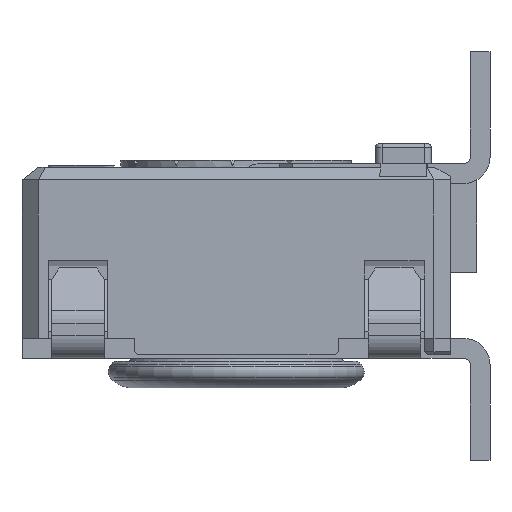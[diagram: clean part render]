
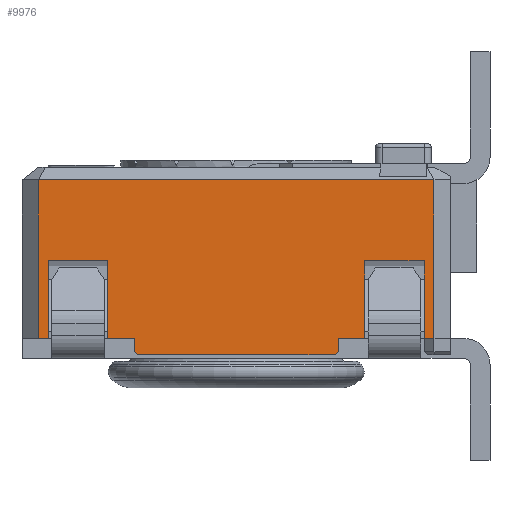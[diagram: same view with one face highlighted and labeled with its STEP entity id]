
A CAD part, left-side view. The second image highlights one B-rep face of the part: STEP entity #9976.
In plain terms, the highlighted planar face has unit normal (-1, 0, 0).
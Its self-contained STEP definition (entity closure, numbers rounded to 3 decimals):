
#429=PLANE('',#10728);
#927=FACE_OUTER_BOUND('',#1447,.T.);
#1447=EDGE_LOOP('',(#8835,#8836,#8837,#8838,#8839,#8840,#8841,#8842,#8843,
#8844,#8845,#8846,#8847,#8848,#8849,#8850,#8851,#8852));
#2064=LINE('',#15100,#3197);
#2173=LINE('',#15344,#3306);
#2179=LINE('',#15357,#3312);
#2185=LINE('',#15368,#3318);
#2191=LINE('',#15379,#3324);
#2196=LINE('',#15389,#3329);
#2199=LINE('',#15395,#3332);
#2204=LINE('',#15404,#3337);
#2220=LINE('',#15434,#3353);
#2243=LINE('',#15487,#3376);
#2255=LINE('',#15507,#3388);
#2257=LINE('',#15512,#3390);
#2266=LINE('',#15530,#3399);
#2267=LINE('',#15532,#3400);
#2466=LINE('',#16028,#3599);
#2479=LINE('',#16052,#3612);
#2480=LINE('',#16054,#3613);
#2481=LINE('',#16056,#3614);
#3197=VECTOR('',#12150,10.);
#3306=VECTOR('',#12325,10.);
#3312=VECTOR('',#12333,10.);
#3318=VECTOR('',#12339,10.);
#3324=VECTOR('',#12347,10.);
#3329=VECTOR('',#12354,10.);
#3332=VECTOR('',#12359,10.);
#3337=VECTOR('',#12366,10.);
#3353=VECTOR('',#12390,10.);
#3376=VECTOR('',#12441,10.);
#3388=VECTOR('',#12461,10.);
#3390=VECTOR('',#12465,10.);
#3399=VECTOR('',#12486,10.);
#3400=VECTOR('',#12489,10.);
#3599=VECTOR('',#12960,10.);
#3612=VECTOR('',#12981,10.);
#3613=VECTOR('',#12984,10.);
#3614=VECTOR('',#12987,10.);
#4556=VERTEX_POINT('',#15097);
#4557=VERTEX_POINT('',#15099);
#4658=VERTEX_POINT('',#15341);
#4659=VERTEX_POINT('',#15343);
#4663=VERTEX_POINT('',#15353);
#4665=VERTEX_POINT('',#15356);
#4670=VERTEX_POINT('',#15366);
#4673=VERTEX_POINT('',#15376);
#4677=VERTEX_POINT('',#15386);
#4680=VERTEX_POINT('',#15393);
#4683=VERTEX_POINT('',#15402);
#4691=VERTEX_POINT('',#15421);
#4693=VERTEX_POINT('',#15433);
#4709=VERTEX_POINT('',#15483);
#4714=VERTEX_POINT('',#15509);
#4851=VERTEX_POINT('',#16025);
#4852=VERTEX_POINT('',#16027);
#4859=VERTEX_POINT('',#16050);
#5693=EDGE_CURVE('',#4557,#4556,#2064,.T.);
#5818=EDGE_CURVE('',#4659,#4658,#2173,.T.);
#5824=EDGE_CURVE('',#4665,#4663,#2179,.T.);
#5830=EDGE_CURVE('',#4658,#4670,#2185,.T.);
#5836=EDGE_CURVE('',#4663,#4673,#2191,.T.);
#5841=EDGE_CURVE('',#4673,#4677,#2196,.T.);
#5844=EDGE_CURVE('',#4677,#4680,#2199,.T.);
#5849=EDGE_CURVE('',#4680,#4683,#2204,.T.);
#5865=EDGE_CURVE('',#4693,#4659,#2220,.T.);
#5894=EDGE_CURVE('',#4556,#4693,#2243,.T.);
#5906=EDGE_CURVE('',#4557,#4709,#2255,.T.);
#5908=EDGE_CURVE('',#4670,#4714,#2257,.T.);
#5917=EDGE_CURVE('',#4683,#4691,#2266,.T.);
#5918=EDGE_CURVE('',#4709,#4691,#2267,.T.);
#6161=EDGE_CURVE('',#4851,#4852,#2466,.T.);
#6174=EDGE_CURVE('',#4859,#4714,#2479,.T.);
#6175=EDGE_CURVE('',#4859,#4852,#2480,.T.);
#6176=EDGE_CURVE('',#4851,#4665,#2481,.T.);
#8835=ORIENTED_EDGE('',*,*,#6174,.F.);
#8836=ORIENTED_EDGE('',*,*,#6175,.T.);
#8837=ORIENTED_EDGE('',*,*,#6161,.F.);
#8838=ORIENTED_EDGE('',*,*,#6176,.T.);
#8839=ORIENTED_EDGE('',*,*,#5824,.T.);
#8840=ORIENTED_EDGE('',*,*,#5836,.T.);
#8841=ORIENTED_EDGE('',*,*,#5841,.T.);
#8842=ORIENTED_EDGE('',*,*,#5844,.T.);
#8843=ORIENTED_EDGE('',*,*,#5849,.T.);
#8844=ORIENTED_EDGE('',*,*,#5917,.T.);
#8845=ORIENTED_EDGE('',*,*,#5918,.F.);
#8846=ORIENTED_EDGE('',*,*,#5906,.F.);
#8847=ORIENTED_EDGE('',*,*,#5693,.T.);
#8848=ORIENTED_EDGE('',*,*,#5894,.T.);
#8849=ORIENTED_EDGE('',*,*,#5865,.T.);
#8850=ORIENTED_EDGE('',*,*,#5818,.T.);
#8851=ORIENTED_EDGE('',*,*,#5830,.T.);
#8852=ORIENTED_EDGE('',*,*,#5908,.T.);
#9976=ADVANCED_FACE('',(#927),#429,.T.);
#10728=AXIS2_PLACEMENT_3D('',#16237,#13189,#13190);
#12150=DIRECTION('',(0.,-1.,0.));
#12325=DIRECTION('',(0.,0.,-1.));
#12333=DIRECTION('',(0.,-1.,0.));
#12339=DIRECTION('',(0.,-1.,0.));
#12347=DIRECTION('',(0.,0.,1.));
#12354=DIRECTION('',(0.,-1.,0.));
#12359=DIRECTION('',(0.,0.,-1.));
#12366=DIRECTION('',(0.,-1.,0.));
#12390=DIRECTION('',(0.,-1.,0.));
#12441=DIRECTION('',(0.,0.,1.));
#12461=DIRECTION('',(0.,0.,1.));
#12465=DIRECTION('',(0.,0.,-1.));
#12486=DIRECTION('',(0.,0.,1.));
#12489=DIRECTION('',(0.,-1.,0.));
#12960=DIRECTION('',(0.,0.707,-0.707));
#12981=DIRECTION('',(0.,0.707,0.707));
#12984=DIRECTION('',(0.,-1.,0.));
#12987=DIRECTION('',(0.,0.,1.));
#13189=DIRECTION('center_axis',(-1.,0.,0.));
#13190=DIRECTION('ref_axis',(0.,0.,1.));
#15097=CARTESIAN_POINT('',(-14.26,-8.882,0.25));
#15099=CARTESIAN_POINT('',(-14.26,-8.732,0.25));
#15100=CARTESIAN_POINT('',(-14.26,-13.244,0.25));
#15341=CARTESIAN_POINT('',(-14.26,-9.782,0.25));
#15343=CARTESIAN_POINT('',(-14.26,-9.782,1.425));
#15344=CARTESIAN_POINT('',(-14.26,-9.782,0.387));
#15353=CARTESIAN_POINT('',(-14.26,-13.682,0.25));
#15356=CARTESIAN_POINT('',(-14.26,-13.282,0.25));
#15357=CARTESIAN_POINT('',(-14.26,-13.244,0.25));
#15366=CARTESIAN_POINT('',(-14.26,-10.182,0.25));
#15368=CARTESIAN_POINT('',(-14.26,-13.244,0.25));
#15376=CARTESIAN_POINT('',(-14.26,-13.682,1.425));
#15379=CARTESIAN_POINT('',(-14.26,-13.682,0.387));
#15386=CARTESIAN_POINT('',(-14.26,-14.582,1.425));
#15389=CARTESIAN_POINT('',(-14.26,-14.657,1.425));
#15393=CARTESIAN_POINT('',(-14.26,-14.582,0.25));
#15395=CARTESIAN_POINT('',(-14.26,-14.582,0.387));
#15402=CARTESIAN_POINT('',(-14.26,-14.732,0.25));
#15404=CARTESIAN_POINT('',(-14.26,-13.244,0.25));
#15421=CARTESIAN_POINT('',(-14.26,-14.732,2.655));
#15433=CARTESIAN_POINT('',(-14.26,-8.882,1.425));
#15434=CARTESIAN_POINT('',(-14.26,-11.807,1.425));
#15483=CARTESIAN_POINT('',(-14.26,-8.732,2.655));
#15487=CARTESIAN_POINT('',(-14.26,-8.882,0.387));
#15507=CARTESIAN_POINT('',(-14.26,-8.732,0.));
#15509=CARTESIAN_POINT('',(-14.26,-10.182,0.05));
#15512=CARTESIAN_POINT('',(-14.26,-10.182,0.));
#15530=CARTESIAN_POINT('',(-14.26,-14.732,0.));
#15532=CARTESIAN_POINT('',(-14.26,-13.232,2.655));
#16025=CARTESIAN_POINT('',(-14.26,-13.282,0.05));
#16027=CARTESIAN_POINT('',(-14.26,-13.232,0.));
#16028=CARTESIAN_POINT('',(-14.26,-13.619,0.388));
#16050=CARTESIAN_POINT('',(-14.26,-10.232,0.));
#16052=CARTESIAN_POINT('',(-14.26,-11.344,-1.113));
#16054=CARTESIAN_POINT('',(-14.26,-8.732,0.));
#16056=CARTESIAN_POINT('',(-14.26,-13.282,0.));
#16237=CARTESIAN_POINT('Origin',(-14.26,-14.732,0.));
